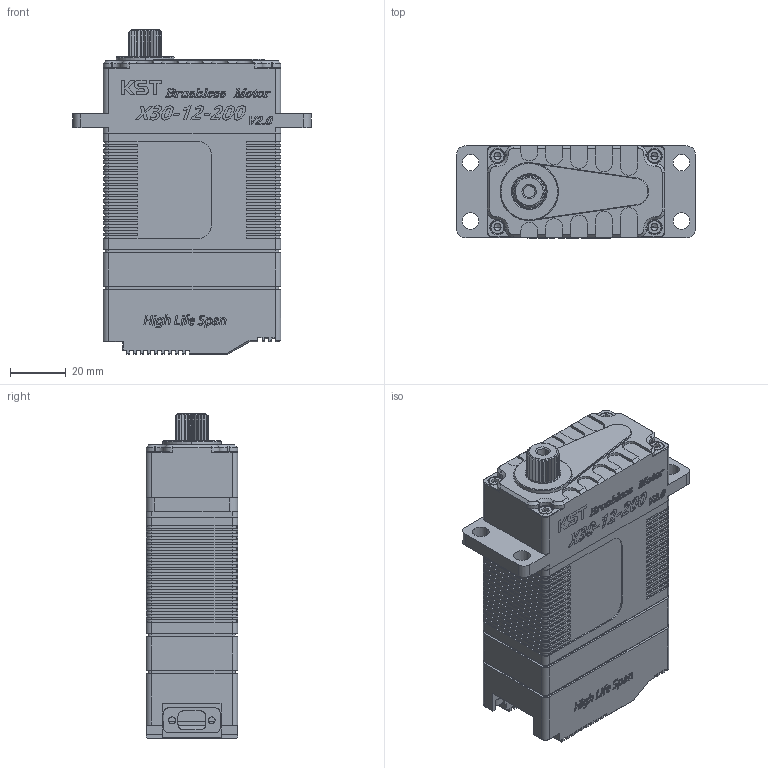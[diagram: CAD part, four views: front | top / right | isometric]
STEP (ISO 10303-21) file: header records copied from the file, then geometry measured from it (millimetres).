
FILE_DESCRIPTION (( 'STEP AP214' ), '1' );
FILE_NAME ('X30-12-200 V8.0_DM_20201221.STEP', '2022-04-21T09:48:24', ( '微软用户' ), ( '微软中国' ), 'SwSTEP 2.0', 'SolidWorks 2016', '' );
FILE_SCHEMA (( 'AUTOMOTIVE_DESIGN' ));
Length unit declared in the file: millimetre
Products named in the file (1): X30-12-200 V8.0_DM_20201221
Bounding box: 86 x 33.1 x 117.05 mm (x, y, z)
Surface area: 37482.7 mm2 (no closed solid volume)
Topology: 0 solids, 61 shells, 1451 faces, 4627 edges, 3207 vertices
Faces by surface type: plane 899, cylinder 313, bspline 178, cone 61
Entity records: 77896 total; most frequent: CARTESIAN_POINT 23411, ORIENTED_EDGE 7991, DIRECTION 7045, EDGE_CURVE 4613, VERTEX_POINT 3207, LINE 3155, VECTOR 3155, AXIS2_PLACEMENT_3D 1945
